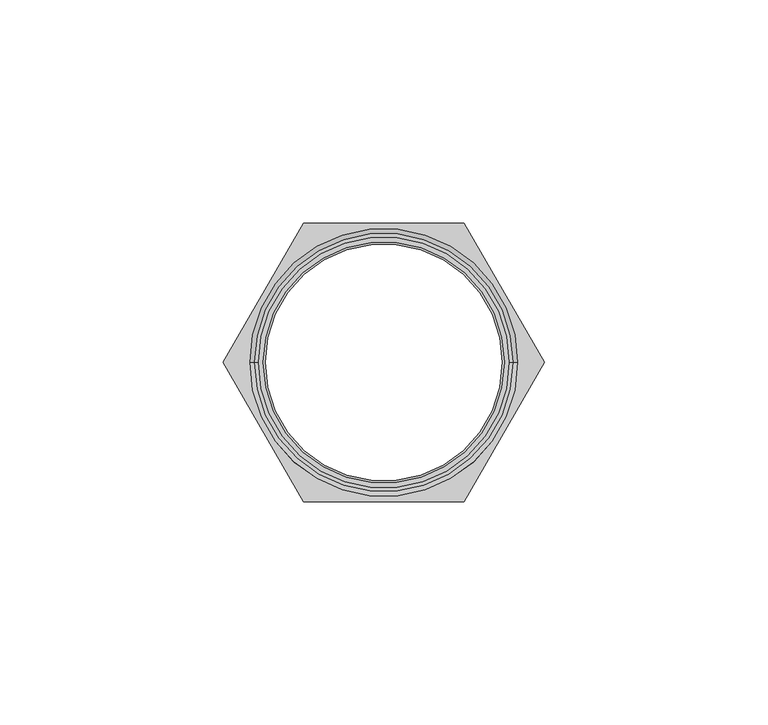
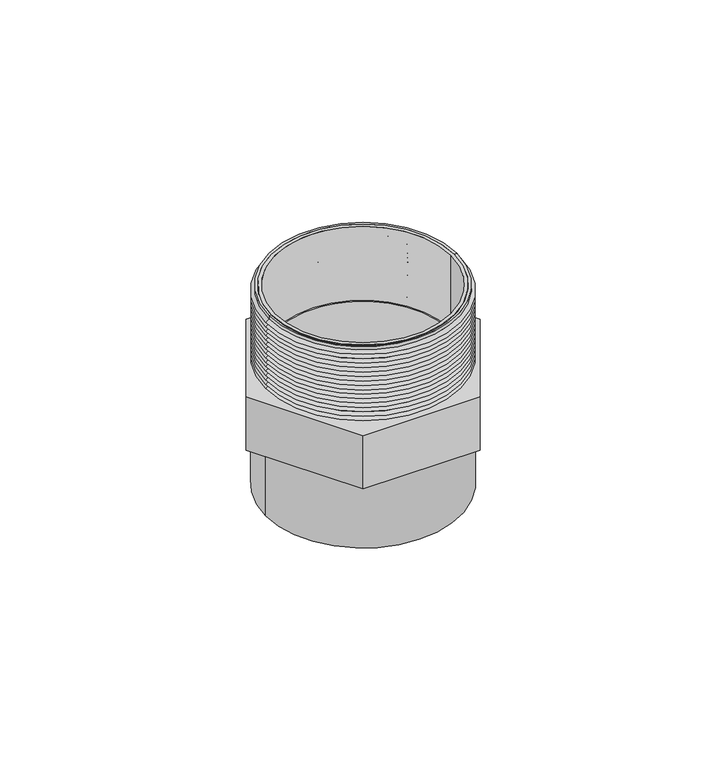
"""IFC4 building model written with IfcOpenShell, lengths in millimetres: valve geometry, Adaptador Macho_Lubrizol_CPVC_FlowGuard_MX 50mm : Adaptador Macho_Lubrizol_CPVC_FlowGuard_MX 50mm."""

from ifc_helpers import new_model, si_unit, point, frame, origin, origin_with_axes, origin_2d, place, context, project, spatial, polyline, circle_curve, trimmed, segment, composite_curve, outline, extrude, source, transform, mapped, element, save
from ifc_brep_helpers import plane_surface, cylinder_surface, revolved_surface, advanced_brep


def valve_f55569fd(model_context):
    return source(origin(), model_context, "Body", "SolidModel", [
        extrude(outline(composite_curve([segment(trimmed(circle_curve(origin_2d(), 28.0854831), [point((-28.0854831, 0.0))], [point((28.0854831, 0.0))], False, "CARTESIAN"), True, "CONTINUOUS"), segment(trimmed(circle_curve(origin_2d(), 28.0854831), [point((28.0854831, 0.0))], [point((-28.0854831, 0.0))], False, "CARTESIAN"), True, "CONTINUOUS")], self_intersect=False), holes=[composite_curve([segment(trimmed(circle_curve(origin_2d(), 27.0), [point((-27.0, 0.0))], [point((27.0, 0.0))], True, "CARTESIAN"), True, "CONTINUOUS"), segment(trimmed(circle_curve(origin_2d(), 27.0), [point((27.0, 0.0))], [point((-27.0, 0.0))], True, "CARTESIAN"), True, "CONTINUOUS")], self_intersect=False)]), frame((0.0, 0.0, 40.7474945), z_axis=(0.0, 0.0, 1.0), x_axis=(1.0, 0.0, 0.0)), (0.0, 0.0, 1.0), 23.9823043),
        extrude(outline(polyline([(-18.0055192, -31.1864741), (-36.0110385, 0.0), (-18.0055192, 31.1864741), (18.0055192, 31.1864741), (36.0110385, 0.0), (18.0055192, -31.1864741), (-18.0055192, -31.1864741)]), holes=[composite_curve([segment(trimmed(circle_curve(origin_2d(), 26.5398145), [point((-26.5398145, 0.0))], [point((26.5398145, 0.0))], True, "CARTESIAN"), True, "CONTINUOUS"), segment(trimmed(circle_curve(origin_2d(), 26.5398145), [point((26.5398145, 0.0))], [point((-26.5398145, 0.0))], True, "CARTESIAN"), True, "CONTINUOUS")], self_intersect=False)]), frame((0.0, 0.0, 23.4432941), z_axis=(0.0, 0.0, 1.0), x_axis=(1.0, 0.0, 0.0)), (0.0, 0.0, 1.0), 17.3042004),
        advanced_brep(
        [(28.9362873, 0.0, 63.7387271), (-28.9362873, 0.0, 63.7387271), (-28.9362873, 0.0, 64.7297988), (28.9362873, 0.0, 64.7297988), (30.0, 0.0, 62.9939075), (-30.0, 0.0, 62.9939075), (28.9657757, 0.0, 62.2697359), (-28.9657757, 0.0, 62.2697359), (30.0, 0.0, 61.5455643), (-30.0, 0.0, 61.5455643), (28.9657757, 0.0, 60.8213926), (-28.9657757, 0.0, 60.8213926), (30.0, 0.0, 60.097221), (-30.0, 0.0, 60.097221), (28.9657757, 0.0, 59.3730494), (-28.9657757, 0.0, 59.3730494), (30.0, 0.0, 58.6488778), (-30.0, 0.0, 58.6488778), (28.9657757, 0.0, 57.9247062), (-28.9657757, 0.0, 57.9247062), (30.0, 0.0, 57.2005345), (-30.0, 0.0, 57.2005345), (28.9657757, 0.0, 56.4763629), (-28.9657757, 0.0, 56.4763629), (30.0, 0.0, 55.7521913), (-30.0, 0.0, 55.7521913), (28.9657757, 0.0, 55.0280197), (-28.9657757, 0.0, 55.0280197), (30.0, 0.0, 54.303848), (-30.0, 0.0, 54.303848), (28.9657757, 0.0, 53.5796764), (-28.9657757, 0.0, 53.5796764), (30.0, 0.0, 52.8555048), (-30.0, 0.0, 52.8555048), (28.9657757, 0.0, 52.1313332), (-28.9657757, 0.0, 52.1313332), (30.0, 0.0, 51.4071616), (-30.0, 0.0, 51.4071616), (28.9992007, 0.0, 50.7063943), (-28.9992007, 0.0, 50.7063943), (30.0, 0.0, 50.0056271), (-30.0, 0.0, 50.0056271), (28.9992007, 0.0, 49.3048599), (-28.9992007, 0.0, 49.3048599), (30.0, 0.0, 48.6040927), (-30.0, 0.0, 48.6040927), (28.9323508, 0.0, 47.8565167), (-28.9323508, 0.0, 47.8565167), (30.0, 0.0, 47.1089406), (-30.0, 0.0, 47.1089406), (28.9992007, 0.0, 46.4081734), (-28.9992007, 0.0, 46.4081734), (30.0, 0.0, 45.7074062), (-30.0, 0.0, 45.7074062), (28.9992007, 0.0, 45.006639), (-28.9992007, 0.0, 45.006639), (30.0, 0.0, 44.3058718), (-30.0, 0.0, 44.3058718), (28.9323508, 0.0, 43.5582958), (-28.9323508, 0.0, 43.5582958), (30.0, 0.0, 42.8107197), (-30.0, 0.0, 42.8107197), (28.9992007, 0.0, 42.1099525), (-28.9992007, 0.0, 42.1099525), (30.0, 0.0, 41.4091853), (-30.0, 0.0, 41.4091853), (29.0550075, 0.0, 40.7474945), (-29.0550075, 0.0, 40.7474945), (28.0854831, 0.0, 40.7474945), (-28.0854831, 0.0, 40.7474945), (28.0854831, 0.0, 64.7297988), (-28.0854831, 0.0, 64.7297988)],
        [
            (0, 1, circle_curve(frame((0.0, 0.0, 63.7387271), z_axis=(0.0, 0.0, 1.0), x_axis=(-1.0, 0.0, 0.0)), 28.9362873)),
            (1, 2),
            (2, 3, circle_curve(frame((0.0, 0.0, 64.7297988), z_axis=(0.0, 0.0, -1.0), x_axis=(-1.0, 0.0, 0.0)), 28.9362873)),
            (3, 0),
            (1, 0, circle_curve(frame((0.0, 0.0, 63.7387271), z_axis=(0.0, 0.0, 1.0), x_axis=(-1.0, 0.0, 0.0)), 28.9362873)),
            (3, 2, circle_curve(frame((0.0, 0.0, 64.7297988), z_axis=(0.0, 0.0, -1.0), x_axis=(-1.0, 0.0, 0.0)), 28.9362873)),
            (4, 5, circle_curve(frame((0.0, 0.0, 62.9939075), z_axis=(0.0, 0.0, 1.0), x_axis=(-1.0, 0.0, 0.0)), 30.0)),
            (5, 1),
            (0, 4),
            (5, 4, circle_curve(frame((0.0, 0.0, 62.9939075), z_axis=(0.0, 0.0, 1.0), x_axis=(-1.0, 0.0, 0.0)), 30.0)),
            (6, 7, circle_curve(frame((0.0, 0.0, 62.2697359), z_axis=(0.0, 0.0, 1.0), x_axis=(-1.0, 0.0, 0.0)), 28.9657757)),
            (7, 5),
            (4, 6),
            (7, 6, circle_curve(frame((0.0, 0.0, 62.2697359), z_axis=(0.0, 0.0, 1.0), x_axis=(-1.0, 0.0, 0.0)), 28.9657757)),
            (8, 9, circle_curve(frame((0.0, 0.0, 61.5455643), z_axis=(0.0, 0.0, 1.0), x_axis=(-1.0, 0.0, 0.0)), 30.0)),
            (9, 7),
            (6, 8),
            (9, 8, circle_curve(frame((0.0, 0.0, 61.5455643), z_axis=(0.0, 0.0, 1.0), x_axis=(-1.0, 0.0, 0.0)), 30.0)),
            (10, 11, circle_curve(frame((0.0, 0.0, 60.8213926), z_axis=(0.0, 0.0, 1.0), x_axis=(-1.0, 0.0, 0.0)), 28.9657757)),
            (11, 9),
            (8, 10),
            (11, 10, circle_curve(frame((0.0, 0.0, 60.8213926), z_axis=(0.0, 0.0, 1.0), x_axis=(-1.0, 0.0, 0.0)), 28.9657757)),
            (12, 13, circle_curve(frame((0.0, 0.0, 60.097221), z_axis=(0.0, 0.0, 1.0), x_axis=(-1.0, 0.0, 0.0)), 30.0)),
            (13, 11),
            (10, 12),
            (13, 12, circle_curve(frame((0.0, 0.0, 60.097221), z_axis=(0.0, 0.0, 1.0), x_axis=(-1.0, 0.0, 0.0)), 30.0)),
            (14, 15, circle_curve(frame((0.0, 0.0, 59.3730494), z_axis=(0.0, 0.0, 1.0), x_axis=(-1.0, 0.0, 0.0)), 28.9657757)),
            (15, 13),
            (12, 14),
            (15, 14, circle_curve(frame((0.0, 0.0, 59.3730494), z_axis=(0.0, 0.0, 1.0), x_axis=(-1.0, 0.0, 0.0)), 28.9657757)),
            (16, 17, circle_curve(frame((0.0, 0.0, 58.6488778), z_axis=(0.0, 0.0, 1.0), x_axis=(-1.0, 0.0, 0.0)), 30.0)),
            (17, 15),
            (14, 16),
            (17, 16, circle_curve(frame((0.0, 0.0, 58.6488778), z_axis=(0.0, 0.0, 1.0), x_axis=(-1.0, 0.0, 0.0)), 30.0)),
            (18, 19, circle_curve(frame((0.0, 0.0, 57.9247062), z_axis=(0.0, 0.0, 1.0), x_axis=(-1.0, 0.0, 0.0)), 28.9657757)),
            (19, 17),
            (16, 18),
            (19, 18, circle_curve(frame((0.0, 0.0, 57.9247062), z_axis=(0.0, 0.0, 1.0), x_axis=(-1.0, 0.0, 0.0)), 28.9657757)),
            (20, 21, circle_curve(frame((0.0, 0.0, 57.2005345), z_axis=(0.0, 0.0, 1.0), x_axis=(-1.0, 0.0, 0.0)), 30.0)),
            (21, 19),
            (18, 20),
            (21, 20, circle_curve(frame((0.0, 0.0, 57.2005345), z_axis=(0.0, 0.0, 1.0), x_axis=(-1.0, 0.0, 0.0)), 30.0)),
            (22, 23, circle_curve(frame((0.0, 0.0, 56.4763629), z_axis=(0.0, 0.0, 1.0), x_axis=(-1.0, 0.0, 0.0)), 28.9657757)),
            (23, 21),
            (20, 22),
            (23, 22, circle_curve(frame((0.0, 0.0, 56.4763629), z_axis=(0.0, 0.0, 1.0), x_axis=(-1.0, 0.0, 0.0)), 28.9657757)),
            (24, 25, circle_curve(frame((0.0, 0.0, 55.7521913), z_axis=(0.0, 0.0, 1.0), x_axis=(-1.0, 0.0, 0.0)), 30.0)),
            (25, 23),
            (22, 24),
            (25, 24, circle_curve(frame((0.0, 0.0, 55.7521913), z_axis=(0.0, 0.0, 1.0), x_axis=(-1.0, 0.0, 0.0)), 30.0)),
            (26, 27, circle_curve(frame((0.0, 0.0, 55.0280197), z_axis=(0.0, 0.0, 1.0), x_axis=(-1.0, 0.0, 0.0)), 28.9657757)),
            (27, 25),
            (24, 26),
            (27, 26, circle_curve(frame((0.0, 0.0, 55.0280197), z_axis=(0.0, 0.0, 1.0), x_axis=(-1.0, 0.0, 0.0)), 28.9657757)),
            (28, 29, circle_curve(frame((0.0, 0.0, 54.303848), z_axis=(0.0, 0.0, 1.0), x_axis=(-1.0, 0.0, 0.0)), 30.0)),
            (29, 27),
            (26, 28),
            (29, 28, circle_curve(frame((0.0, 0.0, 54.303848), z_axis=(0.0, 0.0, 1.0), x_axis=(-1.0, 0.0, 0.0)), 30.0)),
            (30, 31, circle_curve(frame((0.0, 0.0, 53.5796764), z_axis=(0.0, 0.0, 1.0), x_axis=(-1.0, 0.0, 0.0)), 28.9657757)),
            (31, 29),
            (28, 30),
            (31, 30, circle_curve(frame((0.0, 0.0, 53.5796764), z_axis=(0.0, 0.0, 1.0), x_axis=(-1.0, 0.0, 0.0)), 28.9657757)),
            (32, 33, circle_curve(frame((0.0, 0.0, 52.8555048), z_axis=(0.0, 0.0, 1.0), x_axis=(-1.0, 0.0, 0.0)), 30.0)),
            (33, 31),
            (30, 32),
            (33, 32, circle_curve(frame((0.0, 0.0, 52.8555048), z_axis=(0.0, 0.0, 1.0), x_axis=(-1.0, 0.0, 0.0)), 30.0)),
            (34, 35, circle_curve(frame((0.0, 0.0, 52.1313332), z_axis=(0.0, 0.0, 1.0), x_axis=(-1.0, 0.0, 0.0)), 28.9657757)),
            (35, 33),
            (32, 34),
            (35, 34, circle_curve(frame((0.0, 0.0, 52.1313332), z_axis=(0.0, 0.0, 1.0), x_axis=(-1.0, 0.0, 0.0)), 28.9657757)),
            (36, 37, circle_curve(frame((0.0, 0.0, 51.4071616), z_axis=(0.0, 0.0, 1.0), x_axis=(-1.0, 0.0, 0.0)), 30.0)),
            (37, 35),
            (34, 36),
            (37, 36, circle_curve(frame((0.0, 0.0, 51.4071616), z_axis=(0.0, 0.0, 1.0), x_axis=(-1.0, 0.0, 0.0)), 30.0)),
            (38, 39, circle_curve(frame((0.0, 0.0, 50.7063943), z_axis=(0.0, 0.0, 1.0), x_axis=(-1.0, 0.0, 0.0)), 28.9992007)),
            (39, 37),
            (36, 38),
            (39, 38, circle_curve(frame((0.0, 0.0, 50.7063943), z_axis=(0.0, 0.0, 1.0), x_axis=(-1.0, 0.0, 0.0)), 28.9992007)),
            (40, 41, circle_curve(frame((0.0, 0.0, 50.0056271), z_axis=(0.0, 0.0, 1.0), x_axis=(-1.0, 0.0, 0.0)), 30.0)),
            (41, 39),
            (38, 40),
            (41, 40, circle_curve(frame((0.0, 0.0, 50.0056271), z_axis=(0.0, 0.0, 1.0), x_axis=(-1.0, 0.0, 0.0)), 30.0)),
            (42, 43, circle_curve(frame((0.0, 0.0, 49.3048599), z_axis=(0.0, 0.0, 1.0), x_axis=(-1.0, 0.0, 0.0)), 28.9992007)),
            (43, 41),
            (40, 42),
            (43, 42, circle_curve(frame((0.0, 0.0, 49.3048599), z_axis=(0.0, 0.0, 1.0), x_axis=(-1.0, 0.0, 0.0)), 28.9992007)),
            (44, 45, circle_curve(frame((0.0, 0.0, 48.6040927), z_axis=(0.0, 0.0, 1.0), x_axis=(-1.0, 0.0, 0.0)), 30.0)),
            (45, 43),
            (42, 44),
            (45, 44, circle_curve(frame((0.0, 0.0, 48.6040927), z_axis=(0.0, 0.0, 1.0), x_axis=(-1.0, 0.0, 0.0)), 30.0)),
            (46, 47, circle_curve(frame((0.0, 0.0, 47.8565167), z_axis=(0.0, 0.0, 1.0), x_axis=(-1.0, 0.0, 0.0)), 28.9323508)),
            (47, 45),
            (44, 46),
            (47, 46, circle_curve(frame((0.0, 0.0, 47.8565167), z_axis=(0.0, 0.0, 1.0), x_axis=(-1.0, 0.0, 0.0)), 28.9323508)),
            (48, 49, circle_curve(frame((0.0, 0.0, 47.1089406), z_axis=(0.0, 0.0, 1.0), x_axis=(-1.0, 0.0, 0.0)), 30.0)),
            (49, 47),
            (46, 48),
            (49, 48, circle_curve(frame((0.0, 0.0, 47.1089406), z_axis=(0.0, 0.0, 1.0), x_axis=(-1.0, 0.0, 0.0)), 30.0)),
            (50, 51, circle_curve(frame((0.0, 0.0, 46.4081734), z_axis=(0.0, 0.0, 1.0), x_axis=(-1.0, 0.0, 0.0)), 28.9992007)),
            (51, 49),
            (48, 50),
            (51, 50, circle_curve(frame((0.0, 0.0, 46.4081734), z_axis=(0.0, 0.0, 1.0), x_axis=(-1.0, 0.0, 0.0)), 28.9992007)),
            (52, 53, circle_curve(frame((0.0, 0.0, 45.7074062), z_axis=(0.0, 0.0, 1.0), x_axis=(-1.0, 0.0, 0.0)), 30.0)),
            (53, 51),
            (50, 52),
            (53, 52, circle_curve(frame((0.0, 0.0, 45.7074062), z_axis=(0.0, 0.0, 1.0), x_axis=(-1.0, 0.0, 0.0)), 30.0)),
            (54, 55, circle_curve(frame((0.0, 0.0, 45.006639), z_axis=(0.0, 0.0, 1.0), x_axis=(-1.0, 0.0, 0.0)), 28.9992007)),
            (55, 53),
            (52, 54),
            (55, 54, circle_curve(frame((0.0, 0.0, 45.006639), z_axis=(0.0, 0.0, 1.0), x_axis=(-1.0, 0.0, 0.0)), 28.9992007)),
            (56, 57, circle_curve(frame((0.0, 0.0, 44.3058718), z_axis=(0.0, 0.0, 1.0), x_axis=(-1.0, 0.0, 0.0)), 30.0)),
            (57, 55),
            (54, 56),
            (57, 56, circle_curve(frame((0.0, 0.0, 44.3058718), z_axis=(0.0, 0.0, 1.0), x_axis=(-1.0, 0.0, 0.0)), 30.0)),
            (58, 59, circle_curve(frame((0.0, 0.0, 43.5582958), z_axis=(0.0, 0.0, 1.0), x_axis=(-1.0, 0.0, 0.0)), 28.9323508)),
            (59, 57),
            (56, 58),
            (59, 58, circle_curve(frame((0.0, 0.0, 43.5582958), z_axis=(0.0, 0.0, 1.0), x_axis=(-1.0, 0.0, 0.0)), 28.9323508)),
            (60, 61, circle_curve(frame((0.0, 0.0, 42.8107197), z_axis=(0.0, 0.0, 1.0), x_axis=(-1.0, 0.0, 0.0)), 30.0)),
            (61, 59),
            (58, 60),
            (61, 60, circle_curve(frame((0.0, 0.0, 42.8107197), z_axis=(0.0, 0.0, 1.0), x_axis=(-1.0, 0.0, 0.0)), 30.0)),
            (62, 63, circle_curve(frame((0.0, 0.0, 42.1099525), z_axis=(0.0, 0.0, 1.0), x_axis=(-1.0, 0.0, 0.0)), 28.9992007)),
            (63, 61),
            (60, 62),
            (63, 62, circle_curve(frame((0.0, 0.0, 42.1099525), z_axis=(0.0, 0.0, 1.0), x_axis=(-1.0, 0.0, 0.0)), 28.9992007)),
            (64, 65, circle_curve(frame((0.0, 0.0, 41.4091853), z_axis=(0.0, 0.0, 1.0), x_axis=(-1.0, 0.0, 0.0)), 30.0)),
            (65, 63),
            (62, 64),
            (65, 64, circle_curve(frame((0.0, 0.0, 41.4091853), z_axis=(0.0, 0.0, 1.0), x_axis=(-1.0, 0.0, 0.0)), 30.0)),
            (66, 67, circle_curve(frame((0.0, 0.0, 40.7474945), z_axis=(0.0, 0.0, 1.0), x_axis=(-1.0, 0.0, 0.0)), 29.0550075)),
            (67, 65),
            (64, 66),
            (67, 66, circle_curve(frame((0.0, 0.0, 40.7474945), z_axis=(0.0, 0.0, 1.0), x_axis=(-1.0, 0.0, 0.0)), 29.0550075)),
            (68, 69, circle_curve(frame((0.0, 0.0, 40.7474945), z_axis=(0.0, 0.0, 1.0), x_axis=(-1.0, 0.0, 0.0)), 28.0854831)),
            (69, 67),
            (66, 68),
            (69, 68, circle_curve(frame((0.0, 0.0, 40.7474945), z_axis=(0.0, 0.0, 1.0), x_axis=(-1.0, 0.0, 0.0)), 28.0854831)),
            (70, 71, circle_curve(frame((0.0, 0.0, 64.7297988), z_axis=(0.0, 0.0, 1.0), x_axis=(-1.0, 0.0, 0.0)), 28.0854831)),
            (71, 69),
            (68, 70),
            (71, 70, circle_curve(frame((0.0, 0.0, 64.7297988), z_axis=(0.0, 0.0, 1.0), x_axis=(-1.0, 0.0, 0.0)), 28.0854831)),
            (2, 71),
            (70, 3),
        ],
        [
            cylinder_surface(frame((0.0, 0.0, 59.488787), z_axis=(0.0, 0.0, -1.0), x_axis=(-1.0, 0.0, 0.0)), 28.9362873),
            revolved_surface(polyline([(-28.9362873, 0.0, 63.7387271), (-30.0, 0.0, 62.9939075)]), (0.0, 0.0, 59.488787), (0.0, 0.0, -1.0)),
            revolved_surface(polyline([(-30.0, 0.0, 62.9939075), (-28.9657757, 0.0, 62.2697359)]), (0.0, 0.0, 59.488787), (0.0, 0.0, -1.0)),
            revolved_surface(polyline([(-28.9657757, 0.0, 62.2697359), (-30.0, 0.0, 61.5455643)]), (0.0, 0.0, 59.488787), (0.0, 0.0, -1.0)),
            revolved_surface(polyline([(-30.0, 0.0, 61.5455643), (-28.9657757, 0.0, 60.8213926)]), (0.0, 0.0, 59.488787), (0.0, 0.0, -1.0)),
            revolved_surface(polyline([(-28.9657757, 0.0, 60.8213926), (-30.0, 0.0, 60.097221)]), (0.0, 0.0, 59.488787), (0.0, 0.0, -1.0)),
            revolved_surface(polyline([(-30.0, 0.0, 60.097221), (-28.9657757, 0.0, 59.3730494)]), (0.0, 0.0, 59.488787), (0.0, 0.0, -1.0)),
            revolved_surface(polyline([(-28.9657757, 0.0, 59.3730494), (-30.0, 0.0, 58.6488778)]), (0.0, 0.0, 59.488787), (0.0, 0.0, -1.0)),
            revolved_surface(polyline([(-30.0, 0.0, 58.6488778), (-28.9657757, 0.0, 57.9247062)]), (0.0, 0.0, 59.488787), (0.0, 0.0, -1.0)),
            revolved_surface(polyline([(-28.9657757, 0.0, 57.9247062), (-30.0, 0.0, 57.2005345)]), (0.0, 0.0, 59.488787), (0.0, 0.0, -1.0)),
            revolved_surface(polyline([(-30.0, 0.0, 57.2005345), (-28.9657757, 0.0, 56.4763629)]), (0.0, 0.0, 59.488787), (0.0, 0.0, -1.0)),
            revolved_surface(polyline([(-28.9657757, 0.0, 56.4763629), (-30.0, 0.0, 55.7521913)]), (0.0, 0.0, 59.488787), (0.0, 0.0, -1.0)),
            revolved_surface(polyline([(-30.0, 0.0, 55.7521913), (-28.9657757, 0.0, 55.0280197)]), (0.0, 0.0, 59.488787), (0.0, 0.0, -1.0)),
            revolved_surface(polyline([(-28.9657757, 0.0, 55.0280197), (-30.0, 0.0, 54.303848)]), (0.0, 0.0, 59.488787), (0.0, 0.0, -1.0)),
            revolved_surface(polyline([(-30.0, 0.0, 54.303848), (-28.9657757, 0.0, 53.5796764)]), (0.0, 0.0, 59.488787), (0.0, 0.0, -1.0)),
            revolved_surface(polyline([(-28.9657757, 0.0, 53.5796764), (-30.0, 0.0, 52.8555048)]), (0.0, 0.0, 59.488787), (0.0, 0.0, -1.0)),
            revolved_surface(polyline([(-30.0, 0.0, 52.8555048), (-28.9657757, 0.0, 52.1313332)]), (0.0, 0.0, 59.488787), (0.0, 0.0, -1.0)),
            revolved_surface(polyline([(-28.9657757, 0.0, 52.1313332), (-30.0, 0.0, 51.4071616)]), (0.0, 0.0, 59.488787), (0.0, 0.0, -1.0)),
            revolved_surface(polyline([(-30.0, 0.0, 51.4071616), (-28.9992007, 0.0, 50.7063943)]), (0.0, 0.0, 59.488787), (0.0, 0.0, -1.0)),
            revolved_surface(polyline([(-28.9992007, 0.0, 50.7063943), (-30.0, 0.0, 50.0056271)]), (0.0, 0.0, 59.488787), (0.0, 0.0, -1.0)),
            revolved_surface(polyline([(-30.0, 0.0, 50.0056271), (-28.9992007, 0.0, 49.3048599)]), (0.0, 0.0, 59.488787), (0.0, 0.0, -1.0)),
            revolved_surface(polyline([(-28.9992007, 0.0, 49.3048599), (-30.0, 0.0, 48.6040927)]), (0.0, 0.0, 59.488787), (0.0, 0.0, -1.0)),
            revolved_surface(polyline([(-30.0, 0.0, 48.6040927), (-28.9323508, 0.0, 47.8565167)]), (0.0, 0.0, 59.488787), (0.0, 0.0, -1.0)),
            revolved_surface(polyline([(-28.9323508, 0.0, 47.8565167), (-30.0, 0.0, 47.1089406)]), (0.0, 0.0, 59.488787), (0.0, 0.0, -1.0)),
            revolved_surface(polyline([(-30.0, 0.0, 47.1089406), (-28.9992007, 0.0, 46.4081734)]), (0.0, 0.0, 59.488787), (0.0, 0.0, -1.0)),
            revolved_surface(polyline([(-28.9992007, 0.0, 46.4081734), (-30.0, 0.0, 45.7074062)]), (0.0, 0.0, 59.488787), (0.0, 0.0, -1.0)),
            revolved_surface(polyline([(-30.0, 0.0, 45.7074062), (-28.9992007, 0.0, 45.006639)]), (0.0, 0.0, 59.488787), (0.0, 0.0, -1.0)),
            revolved_surface(polyline([(-28.9992007, 0.0, 45.006639), (-30.0, 0.0, 44.3058718)]), (0.0, 0.0, 59.488787), (0.0, 0.0, -1.0)),
            revolved_surface(polyline([(-30.0, 0.0, 44.3058718), (-28.9323508, 0.0, 43.5582958)]), (0.0, 0.0, 59.488787), (0.0, 0.0, -1.0)),
            revolved_surface(polyline([(-28.9323508, 0.0, 43.5582958), (-30.0, 0.0, 42.8107197)]), (0.0, 0.0, 59.488787), (0.0, 0.0, -1.0)),
            revolved_surface(polyline([(-30.0, 0.0, 42.8107197), (-28.9992007, 0.0, 42.1099525)]), (0.0, 0.0, 59.488787), (0.0, 0.0, -1.0)),
            revolved_surface(polyline([(-28.9992007, 0.0, 42.1099525), (-30.0, 0.0, 41.4091853)]), (0.0, 0.0, 59.488787), (0.0, 0.0, -1.0)),
            revolved_surface(polyline([(-30.0, 0.0, 41.4091853), (-29.0550075, 0.0, 40.7474945)]), (0.0, 0.0, 59.488787), (0.0, 0.0, -1.0)),
            plane_surface(frame((0.0, 0.0, 40.7474945), z_axis=(0.0, 0.0, -1.0), x_axis=(-1.0, 0.0, 0.0))),
            revolved_surface(polyline([(-28.0854831, 0.0, 40.7474945), (-28.0854831, 0.0, 64.7297988)]), (0.0, 0.0, 59.488787), (0.0, 0.0, -1.0)),
            plane_surface(frame((0.0, 0.0, 64.7297988), z_axis=(0.0, 0.0, 1.0), x_axis=(-1.0, 0.0, 0.0))),
        ],
        [
            (0, [[1, 2, 3, 4]]),
            (0, [[5, -4, 6, -2]]),
            (1, [[7, 8, -1, 9]]),
            (1, [[10, -9, -5, -8]]),
            (2, [[11, 12, -7, 13]]),
            (2, [[14, -13, -10, -12]]),
            (3, [[15, 16, -11, 17]]),
            (3, [[18, -17, -14, -16]]),
            (4, [[19, 20, -15, 21]]),
            (4, [[22, -21, -18, -20]]),
            (5, [[23, 24, -19, 25]]),
            (5, [[26, -25, -22, -24]]),
            (6, [[27, 28, -23, 29]]),
            (6, [[30, -29, -26, -28]]),
            (7, [[31, 32, -27, 33]]),
            (7, [[34, -33, -30, -32]]),
            (8, [[35, 36, -31, 37]]),
            (8, [[38, -37, -34, -36]]),
            (9, [[39, 40, -35, 41]]),
            (9, [[42, -41, -38, -40]]),
            (10, [[43, 44, -39, 45]]),
            (10, [[46, -45, -42, -44]]),
            (11, [[47, 48, -43, 49]]),
            (11, [[50, -49, -46, -48]]),
            (12, [[51, 52, -47, 53]]),
            (12, [[54, -53, -50, -52]]),
            (13, [[55, 56, -51, 57]]),
            (13, [[58, -57, -54, -56]]),
            (14, [[59, 60, -55, 61]]),
            (14, [[62, -61, -58, -60]]),
            (15, [[63, 64, -59, 65]]),
            (15, [[66, -65, -62, -64]]),
            (16, [[67, 68, -63, 69]]),
            (16, [[70, -69, -66, -68]]),
            (17, [[71, 72, -67, 73]]),
            (17, [[74, -73, -70, -72]]),
            (18, [[75, 76, -71, 77]]),
            (18, [[78, -77, -74, -76]]),
            (19, [[79, 80, -75, 81]]),
            (19, [[82, -81, -78, -80]]),
            (20, [[83, 84, -79, 85]]),
            (20, [[86, -85, -82, -84]]),
            (21, [[87, 88, -83, 89]]),
            (21, [[90, -89, -86, -88]]),
            (22, [[91, 92, -87, 93]]),
            (22, [[94, -93, -90, -92]]),
            (23, [[95, 96, -91, 97]]),
            (23, [[98, -97, -94, -96]]),
            (24, [[99, 100, -95, 101]]),
            (24, [[102, -101, -98, -100]]),
            (25, [[103, 104, -99, 105]]),
            (25, [[106, -105, -102, -104]]),
            (26, [[107, 108, -103, 109]]),
            (26, [[110, -109, -106, -108]]),
            (27, [[111, 112, -107, 113]]),
            (27, [[114, -113, -110, -112]]),
            (28, [[115, 116, -111, 117]]),
            (28, [[118, -117, -114, -116]]),
            (29, [[119, 120, -115, 121]]),
            (29, [[122, -121, -118, -120]]),
            (30, [[123, 124, -119, 125]]),
            (30, [[126, -125, -122, -124]]),
            (31, [[127, 128, -123, 129]]),
            (31, [[130, -129, -126, -128]]),
            (32, [[131, 132, -127, 133]]),
            (32, [[134, -133, -130, -132]]),
            (33, [[135, 136, -131, 137]]),
            (33, [[138, -137, -134, -136]]),
            (34, [[139, 140, -135, 141]]),
            (34, [[142, -141, -138, -140]]),
            (35, [[-3, 143, -139, 144]]),
            (35, [[-6, -144, -142, -143]]),
        ],
    ),
        extrude(outline(composite_curve([segment(trimmed(circle_curve(origin_2d(), 30.0), [point((-30.0, 0.0))], [point((30.0, 0.0))], False, "CARTESIAN"), True, "CONTINUOUS"), segment(trimmed(circle_curve(origin_2d(), 30.0), [point((30.0, 0.0))], [point((-30.0, 0.0))], False, "CARTESIAN"), True, "CONTINUOUS")], self_intersect=False), holes=[composite_curve([segment(trimmed(circle_curve(origin_2d(), 27.0), [point((-27.0, 0.0))], [point((27.0, 0.0))], True, "CARTESIAN"), True, "CONTINUOUS"), segment(trimmed(circle_curve(origin_2d(), 27.0), [point((27.0, 0.0))], [point((-27.0, 0.0))], True, "CARTESIAN"), True, "CONTINUOUS")], self_intersect=False)]), origin_with_axes(), (0.0, 0.0, 1.0), 23.4432941),
    ])


if __name__ == "__main__":
    model = new_model("IFC4")
    model_context = context("Model", 3, world=origin())
    ifc_project = project(units=[si_unit("LENGTHUNIT", "METRE", prefix="MILLI")], contexts=[model_context])
    site = spatial("IfcSite", under=ifc_project)
    building = spatial("IfcBuilding", under=site)
    placement = place(None, origin())
    valve_shape = valve_f55569fd(model_context)
    element("IfcValve", 1, ObjectType="Adaptador Macho_Lubrizol_CPVC_FlowGuard_MX 50mm : Adaptador Macho_Lubrizol_CPVC_FlowGuard_MX 50mm", at=placement, inside=building, context=model_context, shape_type="MappedRepresentation", body=[
        mapped(valve_shape, transform((0.0, 0.0, 0.0), x_axis=(1.0, 0.0, 0.0), y_axis=(0.0, 1.0, 0.0), z_axis=(0.0, 0.0, 1.0))),
    ])
    save(model, "model.ifc")
